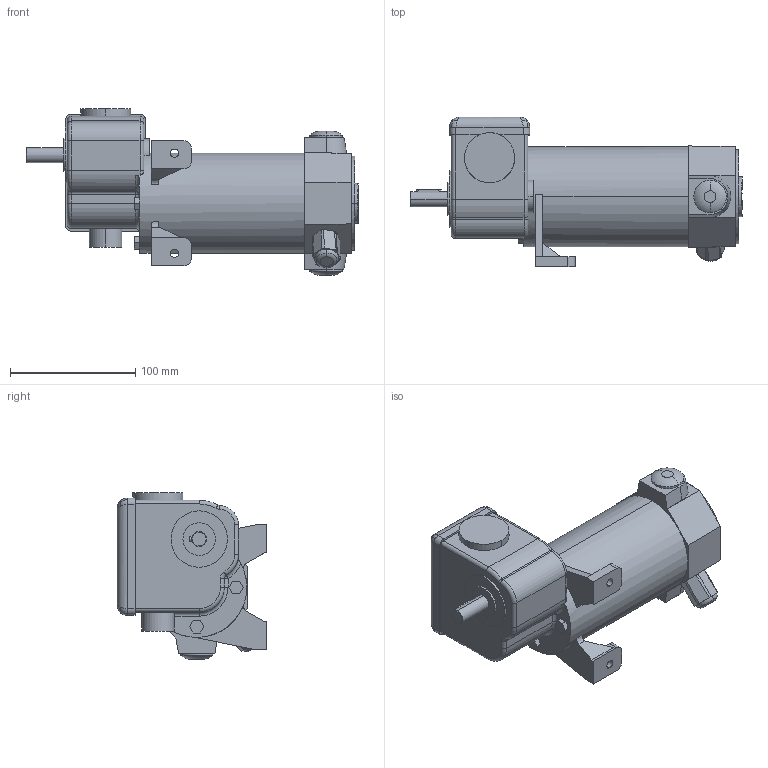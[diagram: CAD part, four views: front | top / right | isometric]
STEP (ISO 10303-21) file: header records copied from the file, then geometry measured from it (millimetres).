
FILE_DESCRIPTION(('OneSpaceDesigner STEP Export'),'2;1');
FILE_NAME('EPG13_G23-10.stp','2008-07-16T13:14:01',(''),(''),'OneSpace Designer STEP processor (Jan. 2003) for AP214(CD)(Solid Model)','OneSpace Designer 12.01D 09-Jul-2004 (C) CoCreate Software GmbH','');
FILE_SCHEMA(('AUTOMOTIVE_DESIGN_CC2 {1 2 10303 214 -1 1 5 1}'));
Length unit declared in the file: millimetre
Products named in the file (2): EPG13_G23-10
Assembly tree (1 placements, depth 2):
  EPG13_G23-10
    EPG13_G23-10
Bounding box: 265 x 119.5 x 133 mm (x, y, z)
Volume: 1438228.4 mm3; surface area: 99912.2 mm2
Topology: 1 solids, 1 shells, 188 faces, 477 edges, 304 vertices
Faces by surface type: plane 86, cylinder 63, torus 20, bspline 16, cone 2, sphere 1
Entity records: 9631 total; most frequent: CARTESIAN_POINT 5346, ORIENTED_EDGE 952, DIRECTION 786, EDGE_CURVE 476, VERTEX_POINT 304, AXIS2_PLACEMENT_3D 270, VECTOR 246, LINE 246
